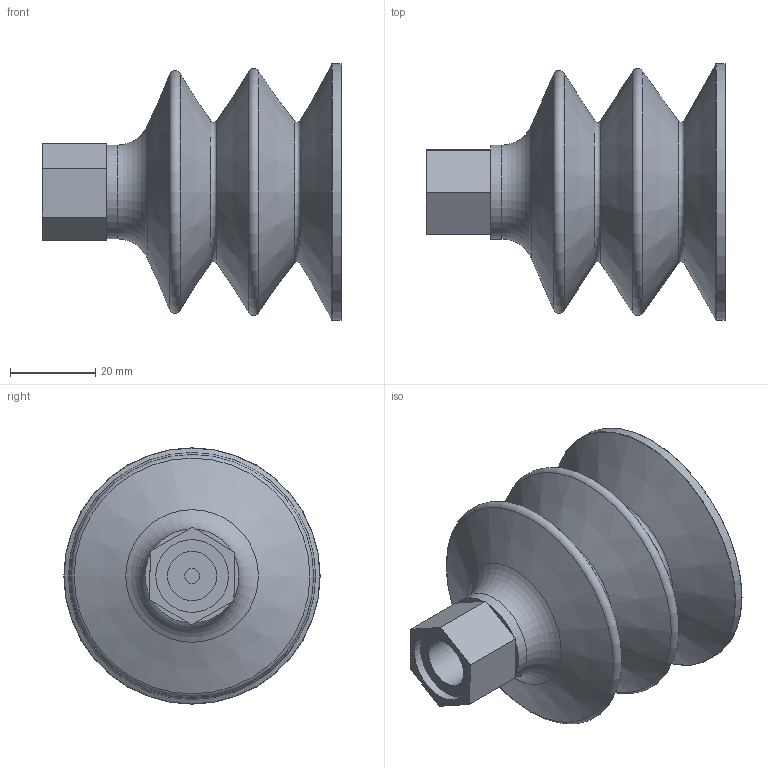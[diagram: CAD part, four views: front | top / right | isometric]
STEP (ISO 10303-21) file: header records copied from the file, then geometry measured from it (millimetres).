
FILE_DESCRIPTION(/* description */ (''),/* implementation_level */ '2;1');
FILE_NAME(/* name */ 'W:\Technik\Konstruktion\CAD-Daten\Vakuumsauger\20_\20.060.101\20.060.101_Kd neu.stp',/* time_stamp */ '2017-08-25T11:21:10+02:00',/* author */ ('DFloßmann'),/* organization */ (''),/* preprocessor_version */ 'ST-DEVELOPER v16.5',/* originating_system */ 'Autodesk Inventor 2017',/* authorisation */ '');
FILE_SCHEMA (('AUTOMOTIVE_DESIGN { 1 0 10303 214 3 1 1 }'));
Length unit declared in the file: millimetre
Products named in the file (3): 20.060.101_Kd; 20.060.101
Assembly tree (2 placements, depth 2):
  20.060.101_Kd
    20.060.101_Kd
    20.060.101
Bounding box: 70.02 x 60 x 60 mm (x, y, z)
Volume: 86038.3 mm3; surface area: 19451.5 mm2
Topology: 2 solids, 3 shells, 43 faces, 82 edges, 50 vertices
Faces by surface type: plane 21, cylinder 9, torus 7, cone 6
Full cylindrical faces by diameter (mm): 3.5 x1, 8 x2, 11.5 x1, 13.5 x2, 17 x1, 22 x1, 60 x1
Entity records: 1046 total; most frequent: DIRECTION 184, CARTESIAN_POINT 156, ORIENTED_EDGE 118, AXIS2_PLACEMENT_3D 77, EDGE_LOOP 72, EDGE_CURVE 59, VERTEX_POINT 49, FACE_OUTER_BOUND 43
